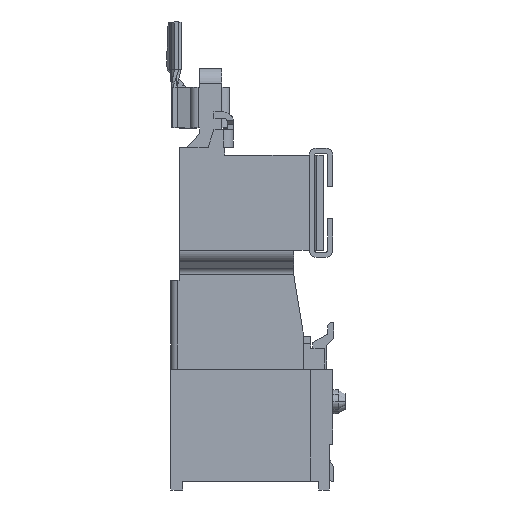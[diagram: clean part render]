
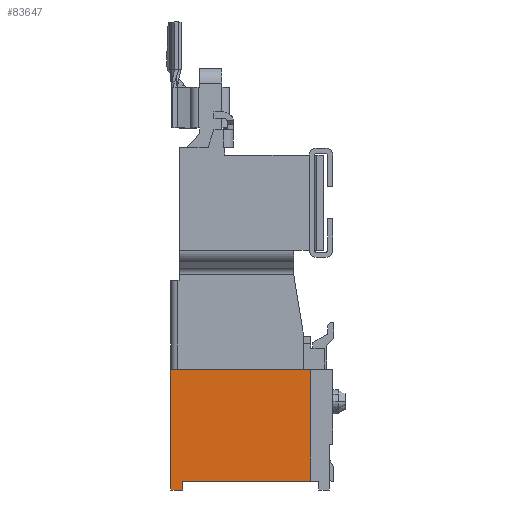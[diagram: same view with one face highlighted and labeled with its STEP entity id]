
A CAD part, left-side view. The second image highlights one B-rep face of the part: STEP entity #83647.
In plain terms, the highlighted planar face has unit normal (-1, 0, 0).
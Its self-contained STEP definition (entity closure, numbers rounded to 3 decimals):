
#19500=DIRECTION('',(0.,0.,-1.));
#19501=VECTOR('',#19500,6.35);
#19502=CARTESIAN_POINT('',(-35.5,-3.35,0.));
#19503=LINE('',#19502,#19501);
#19504=DIRECTION('',(0.,1.,0.));
#19505=VECTOR('',#19504,7.27);
#19506=CARTESIAN_POINT('',(-35.5,-3.35,-6.35));
#19507=LINE('',#19506,#19505);
#19508=DIRECTION('',(0.,0.,1.));
#19509=VECTOR('',#19508,0.5);
#19510=CARTESIAN_POINT('',(-35.5,3.92,-6.85));
#19511=LINE('',#19510,#19509);
#19512=DIRECTION('',(0.,1.,0.));
#19513=VECTOR('',#19512,0.68);
#19514=CARTESIAN_POINT('',(-35.5,3.92,-6.85));
#19515=LINE('',#19514,#19513);
#19516=DIRECTION('',(0.,0.,1.));
#19517=VECTOR('',#19516,6.85);
#19518=CARTESIAN_POINT('',(-35.5,4.6,-6.85));
#19519=LINE('',#19518,#19517);
#19520=DIRECTION('',(0.,-1.,0.));
#19521=VECTOR('',#19520,7.95);
#19522=CARTESIAN_POINT('',(-35.5,4.6,0.));
#19523=LINE('',#19522,#19521);
#49673=CARTESIAN_POINT('',(-35.5,4.6,-6.85));
#49674=CARTESIAN_POINT('',(-35.5,4.6,0.));
#49675=VERTEX_POINT('',#49673);
#49676=VERTEX_POINT('',#49674);
#49689=CARTESIAN_POINT('',(-35.5,3.92,-6.85));
#49690=CARTESIAN_POINT('',(-35.5,3.92,-6.35));
#49691=VERTEX_POINT('',#49689);
#49692=VERTEX_POINT('',#49690);
#49701=CARTESIAN_POINT('',(-35.5,-3.35,0.));
#49702=CARTESIAN_POINT('',(-35.5,-3.35,-6.35));
#49703=VERTEX_POINT('',#49701);
#49704=VERTEX_POINT('',#49702);
#83631=CARTESIAN_POINT('',(-35.5,0.,0.));
#83632=DIRECTION('',(1.,0.,0.));
#83633=DIRECTION('',(0.,0.,-1.));
#83634=AXIS2_PLACEMENT_3D('',#83631,#83632,#83633);
#83635=PLANE('',#83634);
#83637=ORIENTED_EDGE('',*,*,#83636,.T.);
#83639=ORIENTED_EDGE('',*,*,#83638,.T.);
#83640=ORIENTED_EDGE('',*,*,#78648,.F.);
#83642=ORIENTED_EDGE('',*,*,#83641,.T.);
#83643=ORIENTED_EDGE('',*,*,#83282,.T.);
#83644=ORIENTED_EDGE('',*,*,#67464,.T.);
#83645=EDGE_LOOP('',(#83637,#83639,#83640,#83642,#83643,#83644));
#83646=FACE_OUTER_BOUND('',#83645,.F.);
#67464=EDGE_CURVE('',#49676,#49703,#19523,.T.);
#78648=EDGE_CURVE('',#49691,#49692,#19511,.T.);
#83282=EDGE_CURVE('',#49675,#49676,#19519,.T.);
#83636=EDGE_CURVE('',#49703,#49704,#19503,.T.);
#83638=EDGE_CURVE('',#49704,#49692,#19507,.T.);
#83641=EDGE_CURVE('',#49691,#49675,#19515,.T.);
#83647=ADVANCED_FACE('',(#83646),#83635,.F.);
